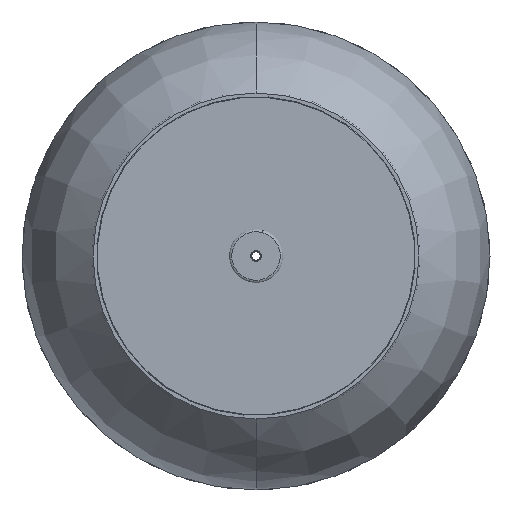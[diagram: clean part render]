
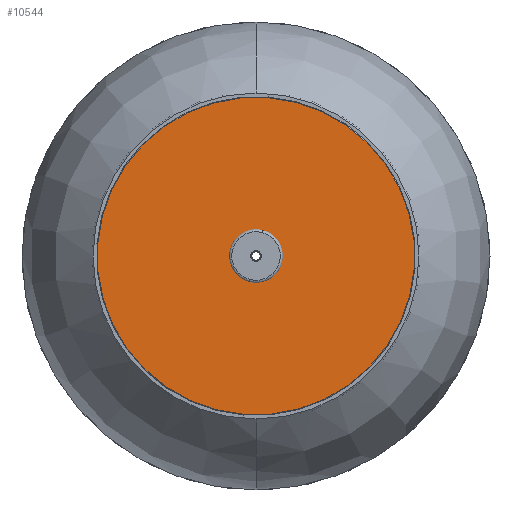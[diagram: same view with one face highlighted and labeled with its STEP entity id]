
A CAD part, front view. The second image highlights one B-rep face of the part: STEP entity #10544.
In plain terms, the highlighted planar face has unit normal (0, -1, 0) as drawn and (0, 1, 0) by its records, which use the part's own axes.
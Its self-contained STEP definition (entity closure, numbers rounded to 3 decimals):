
#80 = DIRECTION ( 'NONE',  ( 0., 0., -1. ) ) ;
#337 = ORIENTED_EDGE ( 'NONE', *, *, #786, .T. ) ;
#486 = DIRECTION ( 'NONE',  ( 0., 1., 0. ) ) ;
#786 = EDGE_CURVE ( 'NONE', #3386, #1242, #2810, .T. ) ;
#1083 = DIRECTION ( 'NONE',  ( 0., 1., 0. ) ) ;
#1086 = CARTESIAN_POINT ( 'NONE',  ( 0., 1.5, 0. ) ) ;
#1144 = DIRECTION ( 'NONE',  ( 0., 0., 1. ) ) ;
#1242 = VERTEX_POINT ( 'NONE', #9088 ) ;
#1978 = DIRECTION ( 'NONE',  ( 0., -1., 0. ) ) ;
#2810 = CIRCLE ( 'NONE', #9852, 5.15 ) ;
#3188 = CIRCLE ( 'NONE', #5804, 5.15 ) ;
#3263 = EDGE_CURVE ( 'NONE', #1242, #3386, #3188, .T. ) ;
#3296 = AXIS2_PLACEMENT_3D ( 'NONE', #1086, #4958, #8808 ) ;
#3386 = VERTEX_POINT ( 'NONE', #9814 ) ;
#3400 = PLANE ( 'NONE',  #12327 ) ;
#3894 = DIRECTION ( 'NONE',  ( 0., -1., 0. ) ) ;
#4174 = ORIENTED_EDGE ( 'NONE', *, *, #3263, .T. ) ;
#4339 = DIRECTION ( 'NONE',  ( 0., 0., 1. ) ) ;
#4958 = DIRECTION ( 'NONE',  ( 0., 1., 0. ) ) ;
#5313 = ORIENTED_EDGE ( 'NONE', *, *, #7814, .T. ) ;
#5354 = VERTEX_POINT ( 'NONE', #7994 ) ;
#5434 = EDGE_CURVE ( 'NONE', #6786, #5354, #10302, .T. ) ;
#5804 = AXIS2_PLACEMENT_3D ( 'NONE', #6674, #3894, #80 ) ;
#6021 = EDGE_LOOP ( 'NONE', ( #7474, #5313 ) ) ;
#6674 = CARTESIAN_POINT ( 'NONE',  ( 0., 1.5, 0. ) ) ;
#6786 = VERTEX_POINT ( 'NONE', #8046 ) ;
#6910 = CARTESIAN_POINT ( 'NONE',  ( 0., 1.5, 0. ) ) ;
#7474 = ORIENTED_EDGE ( 'NONE', *, *, #5434, .T. ) ;
#7814 = EDGE_CURVE ( 'NONE', #5354, #6786, #8734, .T. ) ;
#7994 = CARTESIAN_POINT ( 'NONE',  ( 0., 1.5, 45.8 ) ) ;
#8046 = CARTESIAN_POINT ( 'NONE',  ( 0., 1.5, -45.8 ) ) ;
#8734 = CIRCLE ( 'NONE', #3296, 45.8 ) ;
#8808 = DIRECTION ( 'NONE',  ( 0., 0., 1. ) ) ;
#9088 = CARTESIAN_POINT ( 'NONE',  ( 0., 1.5, -5.15 ) ) ;
#9149 = CARTESIAN_POINT ( 'NONE',  ( 0., 1.5, 0. ) ) ;
#9814 = CARTESIAN_POINT ( 'NONE',  ( 0., 1.5, 5.15 ) ) ;
#9817 = DIRECTION ( 'NONE',  ( 0., 0., -1. ) ) ;
#9852 = AXIS2_PLACEMENT_3D ( 'NONE', #10719, #1978, #9817 ) ;
#10302 = CIRCLE ( 'NONE', #11906, 45.8 ) ;
#10544 = ADVANCED_FACE ( 'NONE', ( #12048, #11040 ), #3400, .T. ) ;
#10714 = EDGE_LOOP ( 'NONE', ( #4174, #337 ) ) ;
#10719 = CARTESIAN_POINT ( 'NONE',  ( 0., 1.5, 0. ) ) ;
#11040 = FACE_OUTER_BOUND ( 'NONE', #6021, .T. ) ;
#11906 = AXIS2_PLACEMENT_3D ( 'NONE', #6910, #1083, #1144 ) ;
#12048 = FACE_BOUND ( 'NONE', #10714, .T. ) ;
#12327 = AXIS2_PLACEMENT_3D ( 'NONE', #9149, #486, #4339 ) ;
